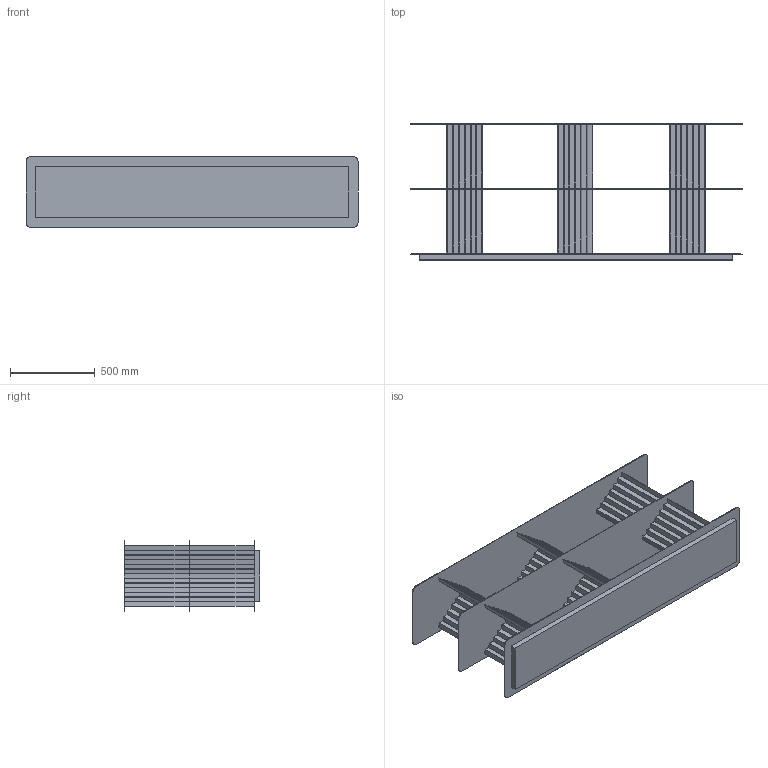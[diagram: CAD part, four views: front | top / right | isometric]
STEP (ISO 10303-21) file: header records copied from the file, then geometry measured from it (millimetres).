
FILE_DESCRIPTION (( 'STEP AP203' ), '1' );
FILE_NAME ('PLEC SHELVES M 2 NIVELES.STEP', '2025-05-08T10:01:23', ( '' ), ( '' ), 'SwSTEP 2.0', 'SolidWorks 2020', '' );
FILE_SCHEMA (( 'CONFIG_CONTROL_DESIGN' ));
Length unit declared in the file: millimetre
Products named in the file (1): PLEC SHELVES M 2 NIVELES
Bounding box: 1961 x 803 x 420 mm (x, y, z)
Volume: 31453689 mm3; surface area: 9547854 mm2
Topology: 10 solids, 10 shells, 360 faces, 1020 edges, 680 vertices
Faces by surface type: plane 348, cylinder 12
Entity records: 11507 total; most frequent: CARTESIAN_POINT 2061, ORIENTED_EDGE 2040, DIRECTION 1766, EDGE_CURVE 1020, VECTOR 996, LINE 996, VERTEX_POINT 680, AXIS2_PLACEMENT_3D 385
